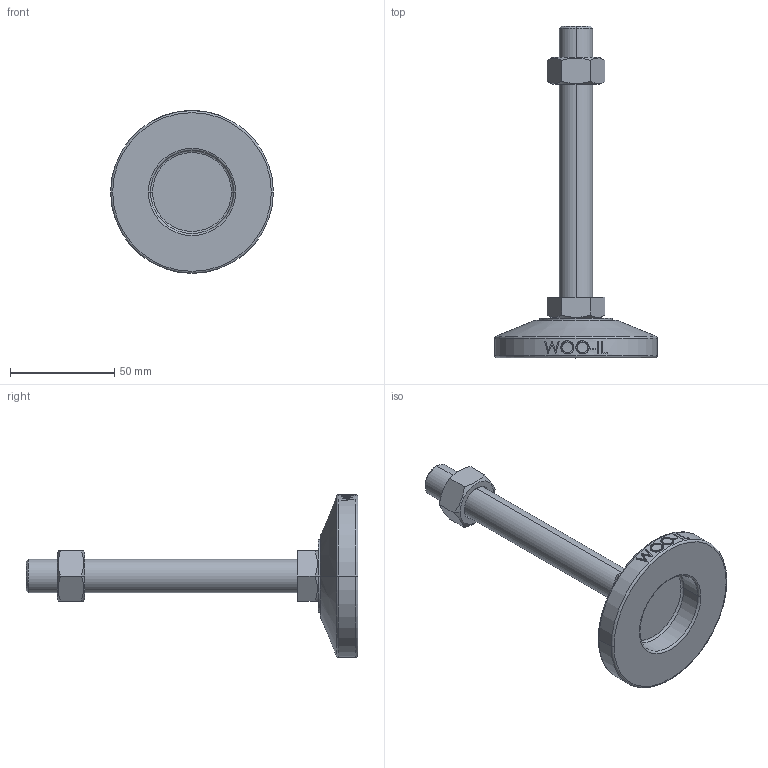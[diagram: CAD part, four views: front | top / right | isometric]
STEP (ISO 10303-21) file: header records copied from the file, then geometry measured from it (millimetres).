
FILE_DESCRIPTION (( 'STEP AP214' ), '1' );
FILE_NAME ('MFT78-M16-130.step', '2021-03-29T04:43:24', ( '' ), ( '' ), 'SwSTEP 2.0', 'SolidWorks 2019', '' );
FILE_SCHEMA (( 'AUTOMOTIVE_DESIGN' ));
Length unit declared in the file: millimetre
Products named in the file (2): MFT78-M16-130
Bounding box: 78 x 159 x 78 mm (x, y, z)
Volume: 91493.6 mm3; surface area: 24115 mm2
Topology: 3 solids, 3 shells, 106 faces, 243 edges, 154 vertices
Faces by surface type: plane 48, cylinder 18, bspline 16, cone 14, torus 10
Entity records: 4506 total; most frequent: CARTESIAN_POINT 2163, ORIENTED_EDGE 486, DIRECTION 439, EDGE_CURVE 243, AXIS2_PLACEMENT_3D 170, VERTEX_POINT 154, EDGE_LOOP 119, FACE_OUTER_BOUND 106
